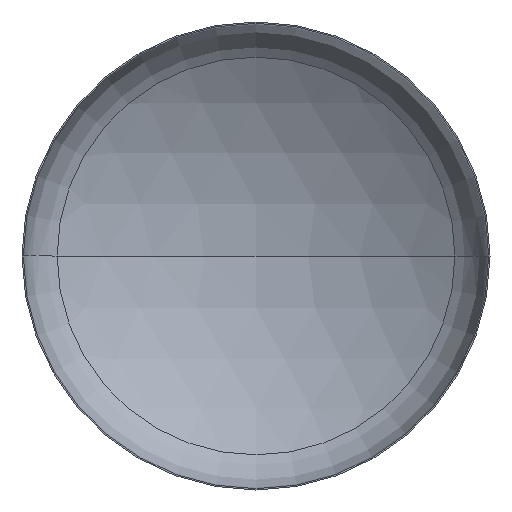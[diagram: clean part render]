
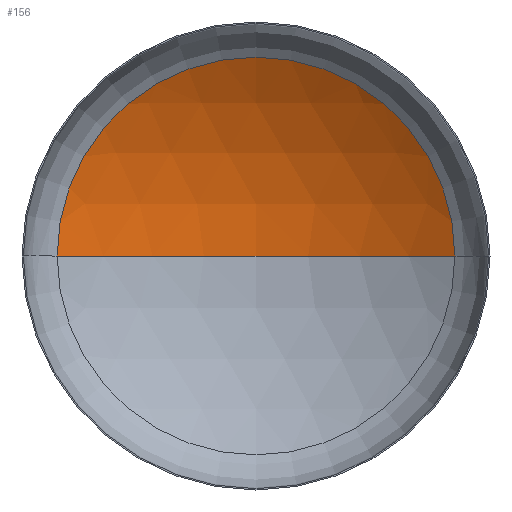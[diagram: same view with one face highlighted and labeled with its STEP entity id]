
A CAD part, front view. The second image highlights one B-rep face of the part: STEP entity #156.
In plain terms, the highlighted spherical face has radius 2880 mm.
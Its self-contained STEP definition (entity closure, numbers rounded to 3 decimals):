
#5 = EDGE_LOOP ( 'NONE', ( #15, #328, #101 ) ) ;
#6 = AXIS2_PLACEMENT_3D ( 'NONE', #251, #293, #388 ) ;
#10 = VERTEX_POINT ( 'NONE', #270 ) ;
#15 = ORIENTED_EDGE ( 'NONE', *, *, #348, .F. ) ;
#19 = VERTEX_POINT ( 'NONE', #295 ) ;
#48 = CARTESIAN_POINT ( 'NONE',  ( 0., 500.228, 0. ) ) ;
#52 = AXIS2_PLACEMENT_3D ( 'NONE', #391, #70, #208 ) ;
#57 = AXIS2_PLACEMENT_3D ( 'NONE', #252, #411, #200 ) ;
#60 = AXIS2_PLACEMENT_3D ( 'NONE', #48, #274, #129 ) ;
#70 = DIRECTION ( 'NONE',  ( 0., 0., -1. ) ) ;
#101 = ORIENTED_EDGE ( 'NONE', *, *, #143, .T. ) ;
#119 = VERTEX_POINT ( 'NONE', #322 ) ;
#129 = DIRECTION ( 'NONE',  ( 1., 0., 0. ) ) ;
#143 = EDGE_CURVE ( 'NONE', #19, #119, #369, .T. ) ;
#147 = EDGE_CURVE ( 'NONE', #10, #19, #240, .T. ) ;
#156 = ADVANCED_FACE ( 'NONE', ( #298 ), #178, .F. ) ;
#178 = SPHERICAL_SURFACE ( 'NONE', #52, 2880. ) ;
#200 = DIRECTION ( 'NONE',  ( -1., 0., 0. ) ) ;
#208 = DIRECTION ( 'NONE',  ( -1., 0., 0. ) ) ;
#233 = CIRCLE ( 'NONE', #6, 2880. ) ;
#240 = CIRCLE ( 'NONE', #57, 2880. ) ;
#251 = CARTESIAN_POINT ( 'NONE',  ( 0., -1939.873, 0. ) ) ;
#252 = CARTESIAN_POINT ( 'NONE',  ( 0., -1939.873, 0. ) ) ;
#270 = CARTESIAN_POINT ( 'NONE',  ( 0., 940.127, 0. ) ) ;
#274 = DIRECTION ( 'NONE',  ( 0., -1., 0. ) ) ;
#293 = DIRECTION ( 'NONE',  ( 0., 0., 1. ) ) ;
#295 = CARTESIAN_POINT ( 'NONE',  ( 1529.806, 500.228, 0. ) ) ;
#298 = FACE_OUTER_BOUND ( 'NONE', #5, .T. ) ;
#322 = CARTESIAN_POINT ( 'NONE',  ( -1529.806, 500.228, 0. ) ) ;
#328 = ORIENTED_EDGE ( 'NONE', *, *, #147, .T. ) ;
#348 = EDGE_CURVE ( 'NONE', #10, #119, #233, .T. ) ;
#369 = CIRCLE ( 'NONE', #60, 1529.806 ) ;
#388 = DIRECTION ( 'NONE',  ( 1., 0., 0. ) ) ;
#391 = CARTESIAN_POINT ( 'NONE',  ( 0., -1939.873, 0. ) ) ;
#411 = DIRECTION ( 'NONE',  ( 0., 0., -1. ) ) ;
